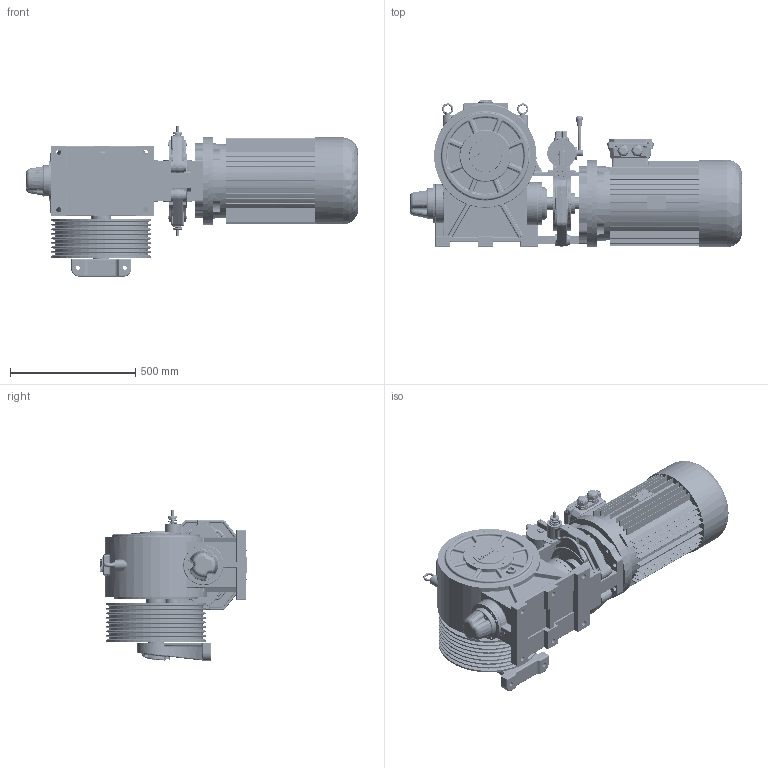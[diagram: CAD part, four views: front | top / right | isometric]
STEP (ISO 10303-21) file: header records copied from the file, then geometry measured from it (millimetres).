
FILE_DESCRIPTION (( 'STEP AP214' ), '1' );
FILE_NAME ('FC22063.STEP', '2025-12-23T09:42:26', ( '' ), ( '' ), 'SwSTEP 2.0', 'SolidWorks 2023', '' );
FILE_SCHEMA (( 'AUTOMOTIVE_DESIGN' ));
Length unit declared in the file: millimetre
Products named in the file (1): FC22063
Bounding box: 1327 x 739.15 x 676.07 mm (x, y, z)
Volume: 116279388.4 mm3; surface area: 5667320.6 mm2
Topology: 53 solids, 61 shells, 5612 faces, 13479 edges, 8102 vertices
Faces by surface type: cylinder 1698, plane 1493, bspline 1148, torus 564, cone 439, sphere 270
Entity records: 230408 total; most frequent: CARTESIAN_POINT 107670, ORIENTED_EDGE 26630, DIRECTION 24017, EDGE_CURVE 13315, AXIS2_PLACEMENT_3D 9631, VERTEX_POINT 8098, EDGE_LOOP 6187, ADVANCED_FACE 5612
